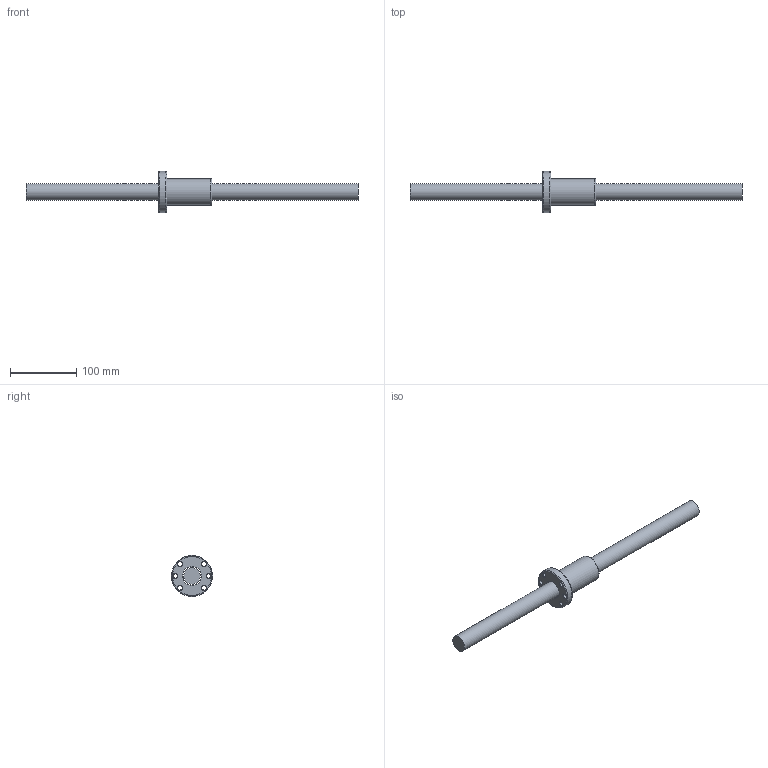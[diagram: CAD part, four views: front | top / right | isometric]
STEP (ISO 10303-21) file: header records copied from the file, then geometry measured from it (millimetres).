
FILE_DESCRIPTION (( 'STEP AP203' ), '1' );
FILE_NAME ('SFNU02510N-4.step', '2024-05-10T07:00:14', ( '' ), ( '' ), 'SwSTEP 2.0', 'SolidWorks 2022', '' );
FILE_SCHEMA (( 'CONFIG_CONTROL_DESIGN' ));
Length unit declared in the file: millimetre
Products named in the file (1): SFNU02510N-4
Bounding box: 500 x 62 x 62 mm (x, y, z)
Volume: 313720.8 mm3; surface area: 63898.5 mm2
Topology: 2 solids, 2 shells, 45 faces, 141 edges, 89 vertices
Faces by surface type: cylinder 18, cone 13, plane 6, bspline 5, torus 3
Full cylindrical faces by diameter (mm): 4 x1, 5 x6, 6.6 x6, 25 x1, 28.2 x1, 40 x1, 62 x1
Entity records: 2899 total; most frequent: CARTESIAN_POINT 2000, DIRECTION 168, ORIENTED_EDGE 146, AXIS2_PLACEMENT_3D 82, EDGE_CURVE 73, EDGE_LOOP 72, VERTEX_POINT 57, FACE_OUTER_BOUND 54
